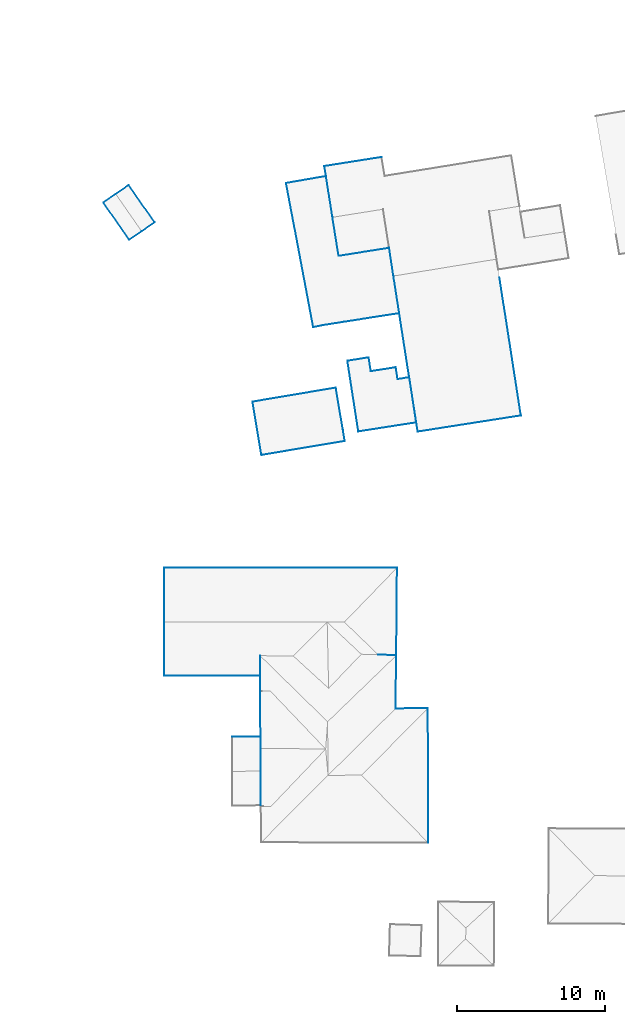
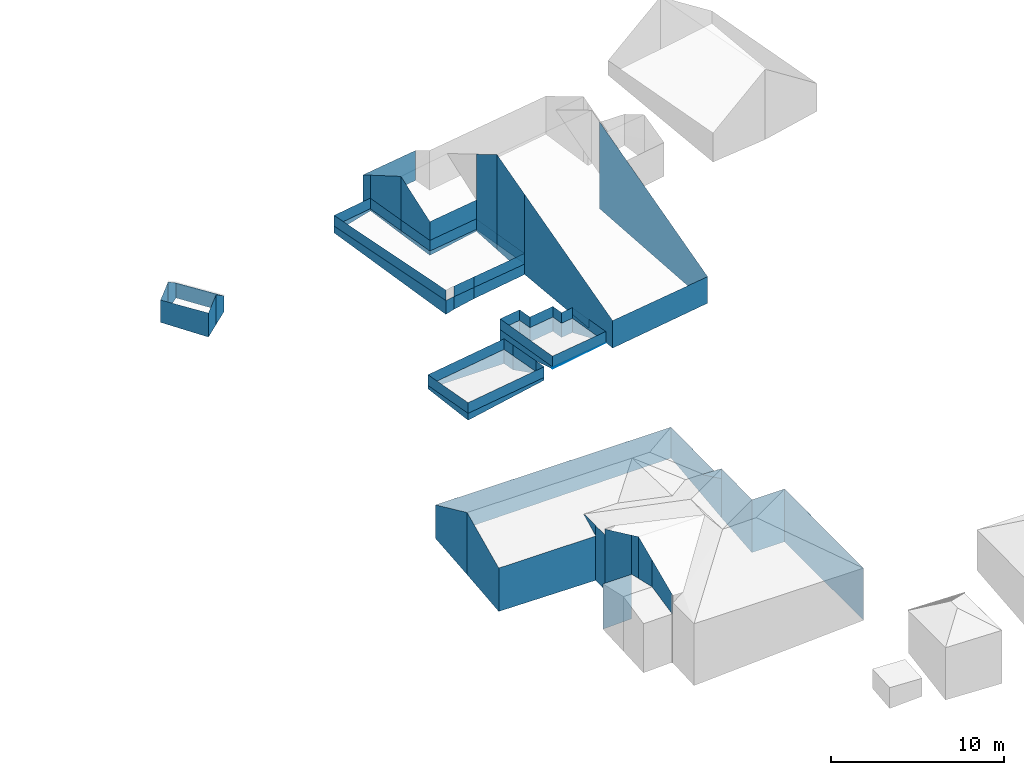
# Not in any storey, part 28 of 57: 95 walls.
"""IFC2X3 building model written with IfcOpenShell, lengths in metres."""

from ifc_helpers import new_model, entity, si_unit, converted_unit, frame, origin, place, context, subcontext, project, spatial, face_set, surface_model, element, save


model = new_model("IFC2X3")

# Units and contexts
model_context = context("Model", 3, precision=1e-05, world=origin())
body_context = subcontext(model_context, "Body", "Model", "MODEL_VIEW")
ifc_project = project(units=[converted_unit("PLANEANGLEUNIT", "DEGREE", entity("IfcRatioMeasure", 0.0174532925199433), si_unit("PLANEANGLEUNIT", "RADIAN"), dimensions=[0, 0, 0, 0, 0, 0, 0]), si_unit("AREAUNIT", "SQUARE_METRE"), si_unit("LENGTHUNIT", "METRE")], contexts=[model_context])

# Site, building
site_placement = place(None, origin())
site = spatial("IfcSite", under=ifc_project, at=site_placement, Name="_site", CompositionType="ELEMENT")
building_1_placement = place(site_placement, origin())
building_1 = spatial("IfcBuilding", under=site, at=building_1_placement, Name="_building", CompositionType="ELEMENT")

# Walls
wall_1_placement = place(building_1_placement, origin())
element("IfcWall", 1, at=wall_1_placement, inside=building_1, Name="Wall", context=body_context, shape_type="SurfaceModel", body=[
    surface_model("IfcFaceBasedSurfaceModel", [(157.38, 230.18, 218.61), (157.51, 229.381, 218.61), (157.51, 229.381, 219.36), (157.38, 230.18, 219.36)], [face_set([[[0, 1, 2, 3]]])]),
])
wall_2_placement = place(building_1_placement, origin())
element("IfcWall", 2, at=wall_2_placement, inside=building_1, Name="Wall", context=body_context, shape_type="SurfaceModel", body=[
    surface_model("IfcFaceBasedSurfaceModel", [(151.77, 229.24, 218.61), (157.38, 230.18, 218.61), (157.38, 230.18, 219.36), (151.77, 229.24, 219.36)], [face_set([[[0, 1, 2, 3]]])]),
])
wall_3_placement = place(building_1_placement, origin())
element("IfcWall", 3, at=wall_3_placement, inside=building_1, Name="Wall", context=body_context, shape_type="SurfaceModel", body=[
    surface_model("IfcFaceBasedSurfaceModel", [(152.37, 225.65, 218.61), (151.77, 229.24, 218.61), (151.77, 229.24, 219.36), (152.37, 225.65, 219.36)], [face_set([[[0, 1, 2, 3]]])]),
])
wall_4_placement = place(building_1_placement, origin())
element("IfcWall", 4, at=wall_4_placement, inside=building_1, Name="Wall", context=body_context, shape_type="SurfaceModel", body=[
    surface_model("IfcFaceBasedSurfaceModel", [(157.98, 226.59, 218.61), (152.37, 225.65, 218.61), (152.37, 225.65, 219.36), (157.98, 226.59, 219.36)], [face_set([[[0, 1, 2, 3]]])]),
])
wall_5_placement = place(building_1_placement, origin())
element("IfcWall", 5, at=wall_5_placement, inside=building_1, Name="Wall", context=body_context, shape_type="SurfaceModel", body=[
    surface_model("IfcFaceBasedSurfaceModel", [(157.86, 227.33, 218.61), (157.98, 226.59, 218.61), (157.98, 226.59, 219.36), (157.86, 227.33, 219.36)], [face_set([[[0, 1, 2, 3]]])]),
])
wall_6_placement = place(building_1_placement, origin())
element("IfcWall", 6, at=wall_6_placement, inside=building_1, Name="Wall", context=body_context, shape_type="SurfaceModel", body=[
    surface_model("IfcFaceBasedSurfaceModel", [(157.38, 230.18, 218.61), (157.51, 229.381, 218.61), (157.51, 229.381, 219.36), (157.38, 230.18, 219.36)], [face_set([[[0, 1, 2, 3]]])]),
])
wall_7_placement = place(building_1_placement, origin())
element("IfcWall", 7, at=wall_7_placement, inside=building_1, Name="Wall", context=body_context, shape_type="SurfaceModel", body=[
    surface_model("IfcFaceBasedSurfaceModel", [(151.77, 229.24, 218.61), (157.38, 230.18, 218.61), (157.38, 230.18, 219.36), (151.77, 229.24, 219.36)], [face_set([[[0, 1, 2, 3]]])]),
])
wall_8_placement = place(building_1_placement, origin())
element("IfcWall", 8, at=wall_8_placement, inside=building_1, Name="Wall", context=body_context, shape_type="SurfaceModel", body=[
    surface_model("IfcFaceBasedSurfaceModel", [(152.37, 225.65, 218.61), (151.77, 229.24, 218.61), (151.77, 229.24, 219.36), (152.37, 225.65, 219.36)], [face_set([[[0, 1, 2, 3]]])]),
])
wall_9_placement = place(building_1_placement, origin())
element("IfcWall", 9, at=wall_9_placement, inside=building_1, Name="Wall", context=body_context, shape_type="SurfaceModel", body=[
    surface_model("IfcFaceBasedSurfaceModel", [(157.98, 226.59, 218.61), (152.37, 225.65, 218.61), (152.37, 225.65, 219.36), (157.98, 226.59, 219.36)], [face_set([[[0, 1, 2, 3]]])]),
])
wall_10_placement = place(building_1_placement, origin())
element("IfcWall", 10, at=wall_10_placement, inside=building_1, Name="Wall", context=body_context, shape_type="SurfaceModel", body=[
    surface_model("IfcFaceBasedSurfaceModel", [(157.86, 227.33, 218.61), (157.98, 226.59, 218.61), (157.98, 226.59, 219.36), (157.86, 227.33, 219.36)], [face_set([[[0, 1, 2, 3]]])]),
])
for number, where, name in (
    (11, (0.0, 0.0, 0.0), "Wall"),
    (12, (0.0, 0.0, 0.0), "Wall"),
):
    element("IfcWall", number, at=place(building_1_placement, frame(where)), inside=building_1, Name=name, context=body_context, shape_type="SurfaceModel", body=[
        surface_model("IfcFaceBasedSurfaceModel", [(157.86, 227.33, 218.61), (157.51, 229.381, 218.61), (157.51, 229.381, 219.36), (157.86, 227.33, 219.36)], [face_set([[[0, 1, 2, 3]]])]),
    ])
wall_11_placement = place(building_1_placement, origin())
element("IfcWall", 13, at=wall_11_placement, inside=building_1, Name="Wall", context=body_context, shape_type="SurfaceModel", body=[
    surface_model("IfcFaceBasedSurfaceModel", [(152.37, 225.65, 218.61), (151.77, 229.24, 218.61), (151.77, 229.24, 218.371), (152.37, 225.65, 218.123)], [face_set([[[0, 1, 2, 3]]])]),
])
wall_12_placement = place(building_1_placement, origin())
element("IfcWall", 14, at=wall_12_placement, inside=building_1, Name="Wall", context=body_context, shape_type="SurfaceModel", body=[
    surface_model("IfcFaceBasedSurfaceModel", [(157.98, 226.59, 218.61), (152.37, 225.65, 218.61), (152.37, 225.65, 218.123), (157.98, 226.59, 218.413)], [face_set([[[0, 1, 2, 3]]])]),
])
wall_13_placement = place(building_1_placement, origin())
element("IfcWall", 15, at=wall_13_placement, inside=building_1, Name="Wall", context=body_context, shape_type="SurfaceModel", body=[
    surface_model("IfcFaceBasedSurfaceModel", [(157.38, 230.18, 218.61), (157.51, 229.381, 218.61), (157.51, 229.381, 217.61), (157.38, 230.18, 217.61)], [face_set([[[0, 1, 2, 3]]])]),
])
wall_14_placement = place(building_1_placement, origin())
element("IfcWall", 16, at=wall_14_placement, inside=building_1, Name="Wall", context=body_context, shape_type="SurfaceModel", body=[
    surface_model("IfcFaceBasedSurfaceModel", [(151.77, 229.24, 218.61), (157.38, 230.18, 218.61), (157.38, 230.18, 217.61), (151.77, 229.24, 218.371)], [face_set([[[0, 1, 2, 3]]])]),
])
wall_15_placement = place(building_1_placement, origin())
element("IfcWall", 17, at=wall_15_placement, inside=building_1, Name="Wall", context=body_context, shape_type="SurfaceModel", body=[
    surface_model("IfcFaceBasedSurfaceModel", [(157.51, 229.381, 218.61), (157.86, 227.33, 218.61), (157.86, 227.33, 218.47), (157.51, 229.381, 217.61)], [face_set([[[0, 1, 2, 3]]])]),
])

# Building
building_2_placement = place(site_placement, origin())
building_2 = spatial("IfcBuilding", under=site, at=building_2_placement, Name="_building", CompositionType="ELEMENT")

# Walls
wall_16_placement = place(building_2_placement, origin())
element("IfcWall", 18, at=wall_16_placement, inside=building_2, Name="Wall", context=body_context, shape_type="SurfaceModel", body=[
    surface_model("IfcFaceBasedSurfaceModel", [(142.55, 243.23, 220.64), (143.43, 243.84, 219.9), (143.43, 243.84, 218.834), (142.55, 243.23, 218.668)], [face_set([[[0, 1, 2, 3]]])]),
])
wall_17_placement = place(building_2_placement, origin())
element("IfcWall", 19, at=wall_17_placement, inside=building_2, Name="Wall", context=body_context, shape_type="SurfaceModel", body=[
    surface_model("IfcFaceBasedSurfaceModel", [(145.17, 241.32, 219.9), (144.29, 240.721, 220.64), (144.29, 240.721, 218.54), (145.17, 241.32, 218.792)], [face_set([[[0, 1, 2, 3]]])]),
])
wall_18_placement = place(building_2_placement, origin())
element("IfcWall", 20, at=wall_18_placement, inside=building_2, Name="Wall", context=body_context, shape_type="SurfaceModel", body=[
    surface_model("IfcFaceBasedSurfaceModel", [(141.72, 242.66, 220.0), (142.55, 243.23, 220.64), (142.55, 243.23, 218.668), (141.72, 242.66, 218.426)], [face_set([[[0, 1, 2, 3]]])]),
])
wall_19_placement = place(building_2_placement, origin())
element("IfcWall", 21, at=wall_19_placement, inside=building_2, Name="Wall", context=body_context, shape_type="SurfaceModel", body=[
    surface_model("IfcFaceBasedSurfaceModel", [(144.29, 240.721, 220.64), (143.46, 240.15, 220.0), (143.46, 240.15, 218.303), (144.29, 240.721, 218.54)], [face_set([[[0, 1, 2, 3]]])]),
])
wall_20_placement = place(building_2_placement, origin())
element("IfcWall", 22, at=wall_20_placement, inside=building_2, Name="Wall", context=body_context, shape_type="SurfaceModel", body=[
    surface_model("IfcFaceBasedSurfaceModel", [(143.43, 243.84, 219.9), (145.17, 241.32, 219.9), (145.17, 241.32, 218.792), (143.43, 243.84, 218.834)], [face_set([[[0, 1, 2, 3]]])]),
])
wall_21_placement = place(building_2_placement, origin())
element("IfcWall", 23, at=wall_21_placement, inside=building_2, Name="Wall", context=body_context, shape_type="SurfaceModel", body=[
    surface_model("IfcFaceBasedSurfaceModel", [(143.46, 240.15, 220.0), (141.72, 242.66, 220.0), (141.72, 242.66, 218.426), (143.46, 240.15, 218.303)], [face_set([[[0, 1, 2, 3]]])]),
])

# Building
building_3_placement = place(site_placement, origin())
building_3 = spatial("IfcBuilding", under=site, at=building_3_placement, Name="_building", CompositionType="ELEMENT")

# Walls
wall_22_placement = place(building_3_placement, origin())
element("IfcWall", 24, at=wall_22_placement, inside=building_3, Name="Wall", context=body_context, shape_type="SurfaceModel", body=[
    surface_model("IfcFaceBasedSurfaceModel", [(161.26, 237.711, 226.39), (160.97, 239.6, 225.38), (160.97, 239.6, 219.96), (161.26, 237.711, 219.7)], [face_set([[[0, 1, 2, 3]]])]),
])
wall_23_placement = place(building_3_placement, origin())
element("IfcWall", 25, at=wall_23_placement, inside=building_3, Name="Wall", context=body_context, shape_type="SurfaceModel", body=[
    surface_model("IfcFaceBasedSurfaceModel", [(161.651, 235.199, 224.98), (161.26, 237.711, 226.39), (161.26, 237.711, 219.7), (161.651, 235.199, 219.345)], [face_set([[[0, 1, 2, 3]]])]),
])
wall_24_placement = place(building_3_placement, origin())
element("IfcWall", 26, at=wall_24_placement, inside=building_3, Name="Wall", context=body_context, shape_type="SurfaceModel", body=[
    surface_model("IfcFaceBasedSurfaceModel", [(168.32, 238.141, 225.99), (169.85, 228.311, 220.5), (169.85, 228.311, 218.63), (168.32, 238.141, 219.868)], [face_set([[[0, 1, 2, 3]]])]),
])
wall_25_placement = place(building_3_placement, origin())
element("IfcWall", 27, at=wall_25_placement, inside=building_3, Name="Wall", context=body_context, shape_type="SurfaceModel", body=[
    surface_model("IfcFaceBasedSurfaceModel", [(157.15, 241.67, 223.9), (156.718, 244.439, 222.459), (156.718, 244.439, 219.948), (157.15, 241.67, 219.859)], [face_set([[[0, 1, 2, 3]]])]),
])
wall_26_placement = place(building_3_placement, origin())
element("IfcWall", 28, at=wall_26_placement, inside=building_3, Name="Wall", context=body_context, shape_type="SurfaceModel", body=[
    surface_model("IfcFaceBasedSurfaceModel", [(157.57, 239.061, 222.15), (157.15, 241.67, 223.9), (157.15, 241.67, 219.859), (157.57, 239.061, 219.776)], [face_set([[[0, 1, 2, 3]]])]),
])
wall_27_placement = place(building_3_placement, origin())
element("IfcWall", 29, at=wall_27_placement, inside=building_3, Name="Wall", context=body_context, shape_type="SurfaceModel", body=[
    surface_model("IfcFaceBasedSurfaceModel", [(162.9, 227.221, 220.5), (161.651, 235.199, 224.98), (161.651, 235.199, 219.345), (162.9, 227.221, 218.561)], [face_set([[[0, 1, 2, 3]]])]),
])
wall_28_placement = place(building_3_placement, origin())
element("IfcWall", 30, at=wall_28_placement, inside=building_3, Name="Wall", context=body_context, shape_type="SurfaceModel", body=[
    surface_model("IfcFaceBasedSurfaceModel", [(156.718, 244.439, 222.459), (156.61, 245.109, 222.11), (156.61, 245.109, 219.97), (156.718, 244.439, 219.948)], [face_set([[[0, 1, 2, 3]]])]),
])
wall_29_placement = place(building_3_placement, origin())
element("IfcWall", 31, at=wall_29_placement, inside=building_3, Name="Wall", context=body_context, shape_type="SurfaceModel", body=[
    surface_model("IfcFaceBasedSurfaceModel", [(156.61, 245.109, 222.11), (160.46, 245.721, 222.11), (160.46, 245.721, 220.0), (156.61, 245.109, 219.97)], [face_set([[[0, 1, 2, 3]]])]),
])
wall_30_placement = place(building_3_placement, origin())
element("IfcWall", 32, at=wall_30_placement, inside=building_3, Name="Wall", context=body_context, shape_type="SurfaceModel", body=[
    surface_model("IfcFaceBasedSurfaceModel", [(160.97, 239.6, 222.15), (157.57, 239.061, 222.15), (157.57, 239.061, 219.776), (160.97, 239.6, 219.96)], [face_set([[[0, 1, 2, 3]]])]),
])
wall_31_placement = place(building_3_placement, origin())
element("IfcWall", 33, at=wall_31_placement, inside=building_3, Name="Wall", context=body_context, shape_type="SurfaceModel", body=[
    surface_model("IfcFaceBasedSurfaceModel", [(154.03, 243.971, 220.101), (156.718, 244.439, 220.101), (156.718, 244.439, 220.851), (154.03, 243.971, 220.851)], [face_set([[[0, 1, 2, 3]]])]),
])
wall_32_placement = place(building_3_placement, origin())
element("IfcWall", 34, at=wall_32_placement, inside=building_3, Name="Wall", context=body_context, shape_type="SurfaceModel", body=[
    surface_model("IfcFaceBasedSurfaceModel", [(155.86, 234.26, 220.101), (154.03, 243.971, 220.101), (154.03, 243.971, 220.851), (155.86, 234.26, 220.851)], [face_set([[[0, 1, 2, 3]]])]),
])
wall_33_placement = place(building_3_placement, origin())
element("IfcWall", 35, at=wall_33_placement, inside=building_3, Name="Wall", context=body_context, shape_type="SurfaceModel", body=[
    surface_model("IfcFaceBasedSurfaceModel", [(154.03, 243.971, 220.101), (156.718, 244.439, 220.101), (156.718, 244.439, 220.851), (154.03, 243.971, 220.851)], [face_set([[[0, 1, 2, 3]]])]),
])
wall_34_placement = place(building_3_placement, origin())
element("IfcWall", 36, at=wall_34_placement, inside=building_3, Name="Wall", context=body_context, shape_type="SurfaceModel", body=[
    surface_model("IfcFaceBasedSurfaceModel", [(155.86, 234.26, 220.101), (154.03, 243.971, 220.101), (154.03, 243.971, 220.851), (155.86, 234.26, 220.851)], [face_set([[[0, 1, 2, 3]]])]),
])
wall_35_placement = place(building_3_placement, origin())
element("IfcWall", 37, at=wall_35_placement, inside=building_3, Name="Wall", context=body_context, shape_type="SurfaceModel", body=[
    surface_model("IfcFaceBasedSurfaceModel", [(157.57, 239.061, 220.08), (157.15, 241.67, 220.08), (157.15, 241.67, 220.83), (157.57, 239.061, 220.83)], [face_set([[[0, 1, 2, 3]]])]),
])
wall_36_placement = place(building_3_placement, origin())
element("IfcWall", 38, at=wall_36_placement, inside=building_3, Name="Wall", context=body_context, shape_type="SurfaceModel", body=[
    surface_model("IfcFaceBasedSurfaceModel", [(160.97, 239.6, 220.08), (157.57, 239.061, 220.08), (157.57, 239.061, 220.83), (160.97, 239.6, 220.83)], [face_set([[[0, 1, 2, 3]]])]),
])
wall_37_placement = place(building_3_placement, origin())
element("IfcWall", 39, at=wall_37_placement, inside=building_3, Name="Wall", context=body_context, shape_type="SurfaceModel", body=[
    surface_model("IfcFaceBasedSurfaceModel", [(157.57, 239.061, 220.08), (157.15, 241.67, 220.08), (157.15, 241.67, 220.83), (157.57, 239.061, 220.83)], [face_set([[[0, 1, 2, 3]]])]),
])
wall_38_placement = place(building_3_placement, origin())
element("IfcWall", 40, at=wall_38_placement, inside=building_3, Name="Wall", context=body_context, shape_type="SurfaceModel", body=[
    surface_model("IfcFaceBasedSurfaceModel", [(160.97, 239.6, 220.08), (157.57, 239.061, 220.08), (157.57, 239.061, 220.83), (160.97, 239.6, 220.83)], [face_set([[[0, 1, 2, 3]]])]),
])
for number, where, name in (
    (41, (0.0, 0.0, 0.0), "Wall"),
    (42, (0.0, 0.0, 0.0), "Wall"),
):
    element("IfcWall", number, at=place(building_3_placement, frame(where)), inside=building_3, Name=name, context=body_context, shape_type="SurfaceModel", body=[
        surface_model("IfcFaceBasedSurfaceModel", [(157.15, 241.67, 220.08), (156.718, 244.439, 220.08), (156.718, 244.439, 220.83), (157.15, 241.67, 220.83)], [face_set([[[0, 1, 2, 3]]])]),
    ])
wall_39_placement = place(building_3_placement, origin())
element("IfcWall", 43, at=wall_39_placement, inside=building_3, Name="Wall", context=body_context, shape_type="SurfaceModel", body=[
    surface_model("IfcFaceBasedSurfaceModel", [(161.26, 237.711, 220.08), (160.97, 239.6, 220.08), (160.97, 239.6, 220.83), (161.26, 237.711, 220.83)], [face_set([[[0, 1, 2, 3]]])]),
])
for number, where, name in (
    (44, (0.0, 0.0, 0.0), "Wall"),
    (45, (0.0, 0.0, 0.0), "Wall"),
):
    element("IfcWall", number, at=place(building_3_placement, frame(where)), inside=building_3, Name=name, context=body_context, shape_type="SurfaceModel", body=[
        surface_model("IfcFaceBasedSurfaceModel", [(161.651, 235.199, 220.08), (161.26, 237.711, 220.08), (161.26, 237.711, 220.83), (161.651, 235.199, 220.83)], [face_set([[[0, 1, 2, 3]]])]),
    ])
wall_40_placement = place(building_3_placement, origin())
element("IfcWall", 46, at=wall_40_placement, inside=building_3, Name="Wall", context=body_context, shape_type="SurfaceModel", body=[
    surface_model("IfcFaceBasedSurfaceModel", [(157.93, 234.619, 220.08), (161.651, 235.199, 220.08), (161.651, 235.199, 220.83), (157.93, 234.619, 220.83)], [face_set([[[0, 1, 2, 3]]])]),
])
wall_41_placement = place(building_3_placement, origin())
element("IfcWall", 47, at=wall_41_placement, inside=building_3, Name="Wall", context=body_context, shape_type="SurfaceModel", body=[
    surface_model("IfcFaceBasedSurfaceModel", [(156.49, 234.391, 220.08), (157.93, 234.619, 220.08), (157.93, 234.619, 220.83), (156.49, 234.391, 220.83)], [face_set([[[0, 1, 2, 3]]])]),
])
wall_42_placement = place(building_3_placement, origin())
element("IfcWall", 48, at=wall_42_placement, inside=building_3, Name="Wall", context=body_context, shape_type="SurfaceModel", body=[
    surface_model("IfcFaceBasedSurfaceModel", [(157.93, 234.619, 220.08), (161.651, 235.199, 220.08), (161.651, 235.199, 220.83), (157.93, 234.619, 220.83)], [face_set([[[0, 1, 2, 3]]])]),
])
wall_43_placement = place(building_3_placement, origin())
element("IfcWall", 49, at=wall_43_placement, inside=building_3, Name="Wall", context=body_context, shape_type="SurfaceModel", body=[
    surface_model("IfcFaceBasedSurfaceModel", [(156.49, 234.391, 220.08), (157.93, 234.619, 220.08), (157.93, 234.619, 220.83), (156.49, 234.391, 220.83)], [face_set([[[0, 1, 2, 3]]])]),
])
wall_44_placement = place(building_3_placement, origin())
element("IfcWall", 50, at=wall_44_placement, inside=building_3, Name="Wall", context=body_context, shape_type="SurfaceModel", body=[
    surface_model("IfcFaceBasedSurfaceModel", [(154.03, 243.971, 220.101), (156.718, 244.439, 220.101), (156.718, 244.439, 219.948), (154.03, 243.971, 219.621)], [face_set([[[0, 1, 2, 3]]])]),
])
wall_45_placement = place(building_3_placement, origin())
element("IfcWall", 51, at=wall_45_placement, inside=building_3, Name="Wall", context=body_context, shape_type="SurfaceModel", body=[
    surface_model("IfcFaceBasedSurfaceModel", [(161.651, 235.199, 220.08), (157.93, 234.619, 220.08), (157.93, 234.619, 219.29), (161.651, 235.199, 219.345)], [face_set([[[0, 1, 2, 3]]])]),
])
wall_46_placement = place(building_3_placement, origin())
element("IfcWall", 52, at=wall_46_placement, inside=building_3, Name="Wall", context=body_context, shape_type="SurfaceModel", body=[
    surface_model("IfcFaceBasedSurfaceModel", [(157.93, 234.619, 220.08), (156.49, 234.391, 220.08), (156.49, 234.391, 219.196), (157.93, 234.619, 219.29)], [face_set([[[0, 1, 2, 3]]])]),
])
wall_47_placement = place(building_3_placement, origin())
element("IfcWall", 53, at=wall_47_placement, inside=building_3, Name="Wall", context=body_context, shape_type="SurfaceModel", body=[
    surface_model("IfcFaceBasedSurfaceModel", [(155.86, 234.26, 220.101), (154.03, 243.971, 220.101), (154.03, 243.971, 219.621), (155.86, 234.26, 219.133)], [face_set([[[0, 1, 2, 3]]])]),
])
wall_48_placement = place(building_3_placement, origin())
element("IfcWall", 54, at=wall_48_placement, inside=building_3, Name="Wall", context=body_context, shape_type="SurfaceModel", body=[
    surface_model("IfcFaceBasedSurfaceModel", [(156.49, 234.391, 220.101), (155.86, 234.26, 220.101), (155.86, 234.26, 219.133), (156.49, 234.391, 219.196)], [face_set([[[0, 1, 2, 3]]])]),
])
wall_49_placement = place(building_3_placement, origin())
element("IfcWall", 55, at=wall_49_placement, inside=building_3, Name="Wall", context=body_context, shape_type="SurfaceModel", body=[
    surface_model("IfcFaceBasedSurfaceModel", [(169.85, 228.311, 220.5), (162.9, 227.221, 220.5), (162.9, 227.221, 218.561), (169.85, 228.311, 218.63)], [face_set([[[0, 1, 2, 3]]])]),
])
wall_50_placement = place(building_3_placement, origin())
element("IfcWall", 56, at=wall_50_placement, inside=building_3, Name="Wall", context=body_context, shape_type="SurfaceModel", body=[
    surface_model("IfcFaceBasedSurfaceModel", [(162.33, 230.881, 218.64), (162.8, 227.84, 218.64), (162.8, 227.84, 219.39), (162.33, 230.881, 219.39)], [face_set([[[0, 1, 2, 3]]])]),
])
wall_51_placement = place(building_3_placement, origin())
element("IfcWall", 57, at=wall_51_placement, inside=building_3, Name="Wall", context=body_context, shape_type="SurfaceModel", body=[
    surface_model("IfcFaceBasedSurfaceModel", [(161.54, 230.76, 218.64), (162.33, 230.881, 218.64), (162.33, 230.881, 219.39), (161.54, 230.76, 219.39)], [face_set([[[0, 1, 2, 3]]])]),
])
wall_52_placement = place(building_3_placement, origin())
element("IfcWall", 58, at=wall_52_placement, inside=building_3, Name="Wall", context=body_context, shape_type="SurfaceModel", body=[
    surface_model("IfcFaceBasedSurfaceModel", [(161.42, 231.551, 218.64), (161.54, 230.76, 218.64), (161.54, 230.76, 219.39), (161.42, 231.551, 219.39)], [face_set([[[0, 1, 2, 3]]])]),
])
wall_53_placement = place(building_3_placement, origin())
element("IfcWall", 59, at=wall_53_placement, inside=building_3, Name="Wall", context=body_context, shape_type="SurfaceModel", body=[
    surface_model("IfcFaceBasedSurfaceModel", [(159.74, 231.289, 218.64), (161.42, 231.551, 218.64), (161.42, 231.551, 219.39), (159.74, 231.289, 219.39)], [face_set([[[0, 1, 2, 3]]])]),
])
wall_54_placement = place(building_3_placement, origin())
element("IfcWall", 60, at=wall_54_placement, inside=building_3, Name="Wall", context=body_context, shape_type="SurfaceModel", body=[
    surface_model("IfcFaceBasedSurfaceModel", [(159.59, 232.221, 218.64), (159.74, 231.289, 218.64), (159.74, 231.289, 219.39), (159.59, 232.221, 219.39)], [face_set([[[0, 1, 2, 3]]])]),
])
wall_55_placement = place(building_3_placement, origin())
element("IfcWall", 61, at=wall_55_placement, inside=building_3, Name="Wall", context=body_context, shape_type="SurfaceModel", body=[
    surface_model("IfcFaceBasedSurfaceModel", [(158.16, 231.99, 218.64), (159.59, 232.221, 218.64), (159.59, 232.221, 219.39), (158.16, 231.99, 219.39)], [face_set([[[0, 1, 2, 3]]])]),
])
wall_56_placement = place(building_3_placement, origin())
element("IfcWall", 62, at=wall_56_placement, inside=building_3, Name="Wall", context=body_context, shape_type="SurfaceModel", body=[
    surface_model("IfcFaceBasedSurfaceModel", [(158.9, 227.23, 218.64), (158.16, 231.99, 218.64), (158.16, 231.99, 219.39), (158.9, 227.23, 219.39)], [face_set([[[0, 1, 2, 3]]])]),
])
wall_57_placement = place(building_3_placement, origin())
element("IfcWall", 63, at=wall_57_placement, inside=building_3, Name="Wall", context=body_context, shape_type="SurfaceModel", body=[
    surface_model("IfcFaceBasedSurfaceModel", [(162.8, 227.84, 218.64), (158.9, 227.23, 218.64), (158.9, 227.23, 219.39), (162.8, 227.84, 219.39)], [face_set([[[0, 1, 2, 3]]])]),
])
wall_58_placement = place(building_3_placement, origin())
element("IfcWall", 64, at=wall_58_placement, inside=building_3, Name="Wall", context=body_context, shape_type="SurfaceModel", body=[
    surface_model("IfcFaceBasedSurfaceModel", [(162.33, 230.881, 218.64), (162.8, 227.84, 218.64), (162.8, 227.84, 219.39), (162.33, 230.881, 219.39)], [face_set([[[0, 1, 2, 3]]])]),
])
wall_59_placement = place(building_3_placement, origin())
element("IfcWall", 65, at=wall_59_placement, inside=building_3, Name="Wall", context=body_context, shape_type="SurfaceModel", body=[
    surface_model("IfcFaceBasedSurfaceModel", [(161.54, 230.76, 218.64), (162.33, 230.881, 218.64), (162.33, 230.881, 219.39), (161.54, 230.76, 219.39)], [face_set([[[0, 1, 2, 3]]])]),
])
wall_60_placement = place(building_3_placement, origin())
element("IfcWall", 66, at=wall_60_placement, inside=building_3, Name="Wall", context=body_context, shape_type="SurfaceModel", body=[
    surface_model("IfcFaceBasedSurfaceModel", [(161.42, 231.551, 218.64), (161.54, 230.76, 218.64), (161.54, 230.76, 219.39), (161.42, 231.551, 219.39)], [face_set([[[0, 1, 2, 3]]])]),
])
wall_61_placement = place(building_3_placement, origin())
element("IfcWall", 67, at=wall_61_placement, inside=building_3, Name="Wall", context=body_context, shape_type="SurfaceModel", body=[
    surface_model("IfcFaceBasedSurfaceModel", [(159.74, 231.289, 218.64), (161.42, 231.551, 218.64), (161.42, 231.551, 219.39), (159.74, 231.289, 219.39)], [face_set([[[0, 1, 2, 3]]])]),
])
wall_62_placement = place(building_3_placement, origin())
element("IfcWall", 68, at=wall_62_placement, inside=building_3, Name="Wall", context=body_context, shape_type="SurfaceModel", body=[
    surface_model("IfcFaceBasedSurfaceModel", [(159.59, 232.221, 218.64), (159.74, 231.289, 218.64), (159.74, 231.289, 219.39), (159.59, 232.221, 219.39)], [face_set([[[0, 1, 2, 3]]])]),
])
wall_63_placement = place(building_3_placement, origin())
element("IfcWall", 69, at=wall_63_placement, inside=building_3, Name="Wall", context=body_context, shape_type="SurfaceModel", body=[
    surface_model("IfcFaceBasedSurfaceModel", [(158.16, 231.99, 218.64), (159.59, 232.221, 218.64), (159.59, 232.221, 219.39), (158.16, 231.99, 219.39)], [face_set([[[0, 1, 2, 3]]])]),
])
wall_64_placement = place(building_3_placement, origin())
element("IfcWall", 70, at=wall_64_placement, inside=building_3, Name="Wall", context=body_context, shape_type="SurfaceModel", body=[
    surface_model("IfcFaceBasedSurfaceModel", [(158.9, 227.23, 218.64), (158.16, 231.99, 218.64), (158.16, 231.99, 219.39), (158.9, 227.23, 219.39)], [face_set([[[0, 1, 2, 3]]])]),
])
wall_65_placement = place(building_3_placement, origin())
element("IfcWall", 71, at=wall_65_placement, inside=building_3, Name="Wall", context=body_context, shape_type="SurfaceModel", body=[
    surface_model("IfcFaceBasedSurfaceModel", [(162.8, 227.84, 218.64), (158.9, 227.23, 218.64), (158.9, 227.23, 219.39), (162.8, 227.84, 219.39)], [face_set([[[0, 1, 2, 3]]])]),
])
wall_66_placement = place(building_3_placement, origin())
element("IfcWall", 72, at=wall_66_placement, inside=building_3, Name="Wall", context=body_context, shape_type="SurfaceModel", body=[
    surface_model("IfcFaceBasedSurfaceModel", [(162.8, 227.84, 218.64), (158.9, 227.23, 218.64), (158.9, 227.23, 218.494), (162.8, 227.84, 218.607)], [face_set([[[0, 1, 2, 3]]])]),
])
wall_67_placement = place(building_3_placement, origin())
element("IfcWall", 73, at=wall_67_placement, inside=building_3, Name="Wall", context=body_context, shape_type="SurfaceModel", body=[
    surface_model("IfcFaceBasedSurfaceModel", [(162.33, 230.881, 218.64), (162.8, 227.84, 218.64), (162.8, 227.84, 218.607), (162.33, 230.881, 217.64)], [face_set([[[0, 1, 2, 3]]])]),
])
wall_68_placement = place(building_3_placement, origin())
element("IfcWall", 74, at=wall_68_placement, inside=building_3, Name="Wall", context=body_context, shape_type="SurfaceModel", body=[
    surface_model("IfcFaceBasedSurfaceModel", [(161.54, 230.76, 218.64), (162.33, 230.881, 218.64), (162.33, 230.881, 217.64), (161.54, 230.76, 217.64)], [face_set([[[0, 1, 2, 3]]])]),
])
wall_69_placement = place(building_3_placement, origin())
element("IfcWall", 75, at=wall_69_placement, inside=building_3, Name="Wall", context=body_context, shape_type="SurfaceModel", body=[
    surface_model("IfcFaceBasedSurfaceModel", [(161.42, 231.551, 218.64), (161.54, 230.76, 218.64), (161.54, 230.76, 217.64), (161.42, 231.551, 217.64)], [face_set([[[0, 1, 2, 3]]])]),
])
wall_70_placement = place(building_3_placement, origin())
element("IfcWall", 76, at=wall_70_placement, inside=building_3, Name="Wall", context=body_context, shape_type="SurfaceModel", body=[
    surface_model("IfcFaceBasedSurfaceModel", [(159.74, 231.289, 218.64), (161.42, 231.551, 218.64), (161.42, 231.551, 217.64), (159.74, 231.289, 217.64)], [face_set([[[0, 1, 2, 3]]])]),
])
wall_71_placement = place(building_3_placement, origin())
element("IfcWall", 77, at=wall_71_placement, inside=building_3, Name="Wall", context=body_context, shape_type="SurfaceModel", body=[
    surface_model("IfcFaceBasedSurfaceModel", [(159.59, 232.221, 218.64), (159.74, 231.289, 218.64), (159.74, 231.289, 217.64), (159.59, 232.221, 217.64)], [face_set([[[0, 1, 2, 3]]])]),
])
wall_72_placement = place(building_3_placement, origin())
element("IfcWall", 78, at=wall_72_placement, inside=building_3, Name="Wall", context=body_context, shape_type="SurfaceModel", body=[
    surface_model("IfcFaceBasedSurfaceModel", [(158.16, 231.99, 218.64), (159.59, 232.221, 218.64), (159.59, 232.221, 217.64), (158.16, 231.99, 217.64)], [face_set([[[0, 1, 2, 3]]])]),
])
wall_73_placement = place(building_3_placement, origin())
element("IfcWall", 79, at=wall_73_placement, inside=building_3, Name="Wall", context=body_context, shape_type="SurfaceModel", body=[
    surface_model("IfcFaceBasedSurfaceModel", [(158.9, 227.23, 218.64), (158.16, 231.99, 218.64), (158.16, 231.99, 217.64), (158.9, 227.23, 218.494)], [face_set([[[0, 1, 2, 3]]])]),
])

# Building
building_4_placement = place(site_placement, origin())
building_4 = spatial("IfcBuilding", under=site, at=building_4_placement, Name="_building", CompositionType="ELEMENT")

# Walls
wall_74_placement = place(building_4_placement, origin())
element("IfcWall", 80, at=wall_74_placement, inside=building_4, Name="Wall", context=body_context, shape_type="SurfaceModel", body=[
    surface_model("IfcFaceBasedSurfaceModel", [(152.319, 204.35, 221.234), (152.309, 205.891, 221.93), (152.309, 205.891, 218.991), (152.319, 204.35, 219.33)], [face_set([[[0, 1, 2, 3]]])]),
])
wall_75_placement = place(building_4_placement, origin())
element("IfcWall", 81, at=wall_75_placement, inside=building_4, Name="Wall", context=body_context, shape_type="SurfaceModel", body=[
    surface_model("IfcFaceBasedSurfaceModel", [(152.309, 205.891, 221.93), (152.3, 206.67, 221.57), (152.3, 206.67, 218.82), (152.309, 205.891, 218.991)], [face_set([[[0, 1, 2, 3]]])]),
])
wall_76_placement = place(building_4_placement, origin())
element("IfcWall", 82, at=wall_76_placement, inside=building_4, Name="Wall", context=body_context, shape_type="SurfaceModel", body=[
    surface_model("IfcFaceBasedSurfaceModel", [(152.33, 202.039, 220.19), (152.319, 204.35, 221.234), (152.319, 204.35, 219.33), (152.33, 202.039, 218.82)], [face_set([[[0, 1, 2, 3]]])]),
])
wall_77_placement = place(building_4_placement, origin())
element("IfcWall", 83, at=wall_77_placement, inside=building_4, Name="Wall", context=body_context, shape_type="SurfaceModel", body=[
    surface_model("IfcFaceBasedSurfaceModel", [(152.28, 210.779, 219.75), (152.27, 212.131, 219.76), (152.27, 212.131, 219.71), (152.28, 210.779, 219.03)], [face_set([[[0, 1, 2, 3]]])]),
])
wall_78_placement = place(building_4_placement, origin())
element("IfcWall", 84, at=wall_78_placement, inside=building_4, Name="Wall", context=body_context, shape_type="SurfaceModel", body=[
    surface_model("IfcFaceBasedSurfaceModel", [(160.23, 212.199, 219.74), (161.45, 212.15, 219.73), (161.45, 212.15, 219.02), (160.23, 212.199, 219.69)], [face_set([[[0, 1, 2, 3]]])]),
])
wall_79_placement = place(building_4_placement, origin())
element("IfcWall", 85, at=wall_79_placement, inside=building_4, Name="Wall", context=body_context, shape_type="SurfaceModel", body=[
    surface_model("IfcFaceBasedSurfaceModel", [(152.3, 206.67, 221.57), (152.29, 209.74, 220.14), (152.29, 209.74, 215.855), (152.3, 206.67, 215.685)], [face_set([[[0, 1, 2, 3]]])]),
])
wall_80_placement = place(building_4_placement, origin())
element("IfcWall", 86, at=wall_80_placement, inside=building_4, Name="Wall", context=body_context, shape_type="SurfaceModel", body=[
    surface_model("IfcFaceBasedSurfaceModel", [(145.81, 214.4, 220.75), (145.81, 218.039, 219.08), (145.81, 218.039, 216.717), (145.81, 214.4, 216.382)], [face_set([[[0, 1, 2, 3]]])]),
])
wall_81_placement = place(building_4_placement, origin())
element("IfcWall", 87, at=wall_81_placement, inside=building_4, Name="Wall", context=body_context, shape_type="SurfaceModel", body=[
    surface_model("IfcFaceBasedSurfaceModel", [(145.82, 210.77, 219.04), (145.81, 214.4, 220.75), (145.81, 214.4, 216.382), (145.82, 210.77, 215.985)], [face_set([[[0, 1, 2, 3]]])]),
])
wall_82_placement = place(building_4_placement, origin())
element("IfcWall", 88, at=wall_82_placement, inside=building_4, Name="Wall", context=body_context, shape_type="SurfaceModel", body=[
    surface_model("IfcFaceBasedSurfaceModel", [(145.81, 218.039, 219.08), (161.5, 218.061, 219.05), (161.5, 218.061, 216.869), (145.81, 218.039, 216.717)], [face_set([[[0, 1, 2, 3]]])]),
])
wall_83_placement = place(building_4_placement, origin())
element("IfcWall", 89, at=wall_83_placement, inside=building_4, Name="Wall", context=body_context, shape_type="SurfaceModel", body=[
    surface_model("IfcFaceBasedSurfaceModel", [(161.45, 212.15, 219.73), (161.4, 208.57, 219.72), (161.4, 208.57, 216.003), (161.45, 212.15, 216.26)], [face_set([[[0, 1, 2, 3]]])]),
])
wall_84_placement = place(building_4_placement, origin())
element("IfcWall", 90, at=wall_84_placement, inside=building_4, Name="Wall", context=body_context, shape_type="SurfaceModel", body=[
    surface_model("IfcFaceBasedSurfaceModel", [(161.4, 208.57, 219.72), (163.58, 208.58, 219.72), (163.58, 208.58, 216.006), (161.4, 208.57, 216.003)], [face_set([[[0, 1, 2, 3]]])]),
])
wall_85_placement = place(building_4_placement, origin())
element("IfcWall", 91, at=wall_85_placement, inside=building_4, Name="Wall", context=body_context, shape_type="SurfaceModel", body=[
    surface_model("IfcFaceBasedSurfaceModel", [(163.58, 208.58, 219.72), (163.6, 199.52, 219.63), (163.6, 199.52, 215.959), (163.58, 208.58, 216.006)], [face_set([[[0, 1, 2, 3]]])]),
])
wall_86_placement = place(building_4_placement, origin())
element("IfcWall", 92, at=wall_86_placement, inside=building_4, Name="Wall", context=body_context, shape_type="SurfaceModel", body=[
    surface_model("IfcFaceBasedSurfaceModel", [(152.29, 209.74, 219.74), (152.28, 210.779, 219.75), (152.28, 210.779, 215.912), (152.29, 209.74, 215.855)], [face_set([[[0, 1, 2, 3]]])]),
])
wall_87_placement = place(building_4_placement, origin())
element("IfcWall", 93, at=wall_87_placement, inside=building_4, Name="Wall", context=body_context, shape_type="SurfaceModel", body=[
    surface_model("IfcFaceBasedSurfaceModel", [(161.5, 218.061, 219.05), (161.45, 212.15, 219.02), (161.45, 212.15, 216.26), (161.5, 218.061, 216.869)], [face_set([[[0, 1, 2, 3]]])]),
])
wall_88_placement = place(building_4_placement, origin())
element("IfcWall", 94, at=wall_88_placement, inside=building_4, Name="Wall", context=body_context, shape_type="SurfaceModel", body=[
    surface_model("IfcFaceBasedSurfaceModel", [(152.28, 210.779, 219.03), (145.82, 210.77, 219.04), (145.82, 210.77, 215.985), (152.28, 210.779, 215.912)], [face_set([[[0, 1, 2, 3]]])]),
])
wall_89_placement = place(building_4_placement, origin())
element("IfcWall", 95, at=wall_89_placement, inside=building_4, Name="Wall", context=body_context, shape_type="SurfaceModel", body=[
    surface_model("IfcFaceBasedSurfaceModel", [(150.38, 206.66, 218.82), (152.3, 206.67, 218.82), (152.3, 206.67, 215.685), (150.38, 206.66, 215.632)], [face_set([[[0, 1, 2, 3]]])]),
])

save(model, "model.ifc")
